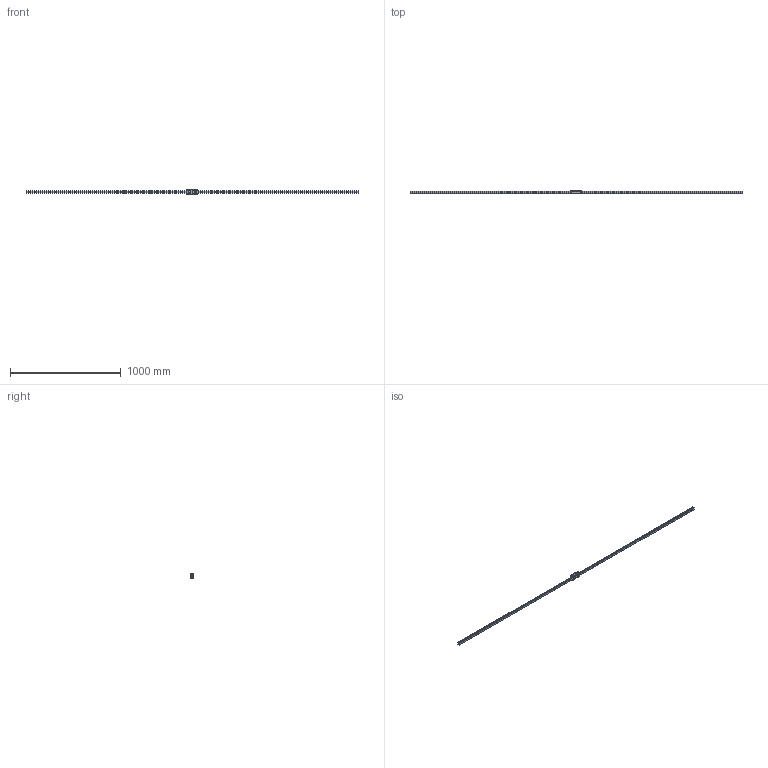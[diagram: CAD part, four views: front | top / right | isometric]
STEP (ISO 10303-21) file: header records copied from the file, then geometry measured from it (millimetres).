
FILE_DESCRIPTION(/* description */ ('STEP AP214'),/* implementation_level */ '2;1');
FILE_NAME(/* name */ 'HDR20LR1SS-3000L_G30_0_PB107_1454-65_0_0_01',/* time_stamp */ '2023-06-30T12:49:20+02:00',/* author */ ('License CC BY-ND 4.0'),/* organization */ ('CADENAS'),/* preprocessor_version */ 'ST-DEVELOPER v19.3',/* originating_system */ 'PARTsolutions',/* authorisation */ ' ');
FILE_SCHEMA (('AUTOMOTIVE_DESIGN {1 0 10303 214 3 1 1}'));
Length unit declared in the file: millimetre
Products named in the file (4): HDR20LR1SS-3000L_G30_0_PB107_1454-65_0_0_01; hsr_ftht_PB107_grease_nipple_joint; HDR20LRSSPB107 Slider-1; HDR20LR1300030 Rail
Assembly tree (3 placements, depth 2):
  HDR20LR1SS-3000L_G30_0_PB107_1454-65_0_0_01
    hsr_ftht_PB107_grease_nipple_joint
    HDR20LRSSPB107 Slider-1
    HDR20LR1300030 Rail
Bounding box: 3000 x 30 x 44 mm (x, y, z)
Volume: 1037482.5 mm3; surface area: 297133.8 mm2
Topology: 3 solids, 3 shells, 343 faces, 820 edges, 540 vertices
Faces by surface type: cylinder 169, plane 161, cone 12, sphere 1
Full cylindrical faces by diameter (mm): 2.9 x4, 3 x1, 3.5 x3, 4.134 x6, 4.5 x1, 6 x50, 9.5 x50
Entity records: 9651 total; most frequent: DIRECTION 1722, CARTESIAN_POINT 1569, ORIENTED_EDGE 1368, AXIS2_PLACEMENT_3D 691, EDGE_CURVE 684, FACE_BOUND 634, EDGE_LOOP 628, VERTEX_POINT 538
